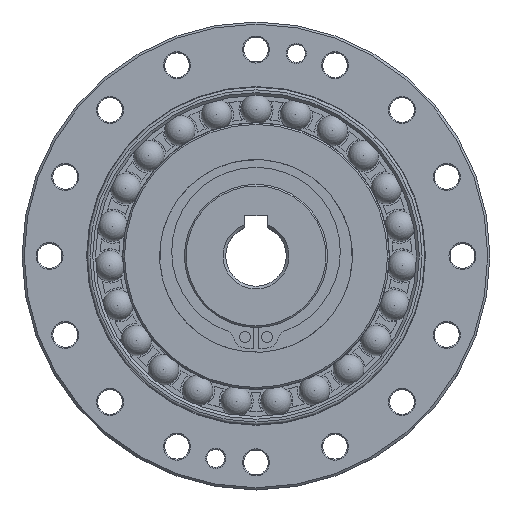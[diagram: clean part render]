
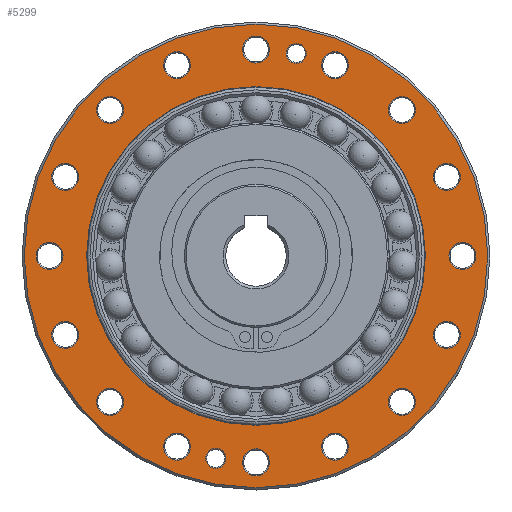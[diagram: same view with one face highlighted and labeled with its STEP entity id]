
A CAD part, top view. The second image highlights one B-rep face of the part: STEP entity #5299.
In plain terms, the highlighted planar face has unit normal (0, 0, 1).
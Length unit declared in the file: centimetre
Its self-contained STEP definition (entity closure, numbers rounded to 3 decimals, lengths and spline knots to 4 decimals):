
#1150=FACE_BOUND($,#1642,.T.);
#1151=FACE_BOUND($,#1643,.T.);
#1152=FACE_BOUND($,#1644,.T.);
#1153=FACE_BOUND($,#1645,.T.);
#1154=FACE_BOUND($,#1646,.T.);
#1155=FACE_BOUND($,#1647,.T.);
#1156=FACE_BOUND($,#1648,.T.);
#1157=FACE_BOUND($,#1649,.T.);
#1158=FACE_BOUND($,#1650,.T.);
#1159=FACE_BOUND($,#1651,.T.);
#1160=FACE_BOUND($,#1652,.T.);
#1161=FACE_BOUND($,#1653,.T.);
#1162=FACE_BOUND($,#1654,.T.);
#1163=FACE_BOUND($,#1655,.T.);
#1164=FACE_BOUND($,#1656,.T.);
#1165=FACE_BOUND($,#1657,.T.);
#1166=FACE_BOUND($,#1658,.T.);
#1167=FACE_BOUND($,#1659,.T.);
#1168=FACE_BOUND($,#1660,.T.);
#1169=FACE_BOUND($,#1661,.T.);
#1642=EDGE_LOOP($,(#4713));
#1643=EDGE_LOOP($,(#4714));
#1644=EDGE_LOOP($,(#4715));
#1645=EDGE_LOOP($,(#4716));
#1646=EDGE_LOOP($,(#4717));
#1647=EDGE_LOOP($,(#4718));
#1648=EDGE_LOOP($,(#4719));
#1649=EDGE_LOOP($,(#4720));
#1650=EDGE_LOOP($,(#4721));
#1651=EDGE_LOOP($,(#4722));
#1652=EDGE_LOOP($,(#4723));
#1653=EDGE_LOOP($,(#4724));
#1654=EDGE_LOOP($,(#4725));
#1655=EDGE_LOOP($,(#4726));
#1656=EDGE_LOOP($,(#4727));
#1657=EDGE_LOOP($,(#4728));
#1658=EDGE_LOOP($,(#4729));
#1659=EDGE_LOOP($,(#4730));
#1660=EDGE_LOOP($,(#4731));
#1661=EDGE_LOOP($,(#4732));
#2275=CIRCLE($,#6105,3.0769);
#2276=CIRCLE($,#6107,0.245);
#2277=CIRCLE($,#6108,0.245);
#2278=CIRCLE($,#6109,0.245);
#2279=CIRCLE($,#6110,0.245);
#2280=CIRCLE($,#6111,0.245);
#2281=CIRCLE($,#6112,0.245);
#2282=CIRCLE($,#6113,0.245);
#2283=CIRCLE($,#6114,0.245);
#2284=CIRCLE($,#6115,0.245);
#2285=CIRCLE($,#6116,0.245);
#2286=CIRCLE($,#6117,0.245);
#2287=CIRCLE($,#6118,0.245);
#2288=CIRCLE($,#6119,0.245);
#2289=CIRCLE($,#6120,0.245);
#2290=CIRCLE($,#6121,0.245);
#2291=CIRCLE($,#6122,0.245);
#2292=CIRCLE($,#6123,0.1821);
#2293=CIRCLE($,#6124,0.1821);
#2294=CIRCLE($,#6125,4.21);
#2741=VERTEX_POINT($,#9425);
#2742=VERTEX_POINT($,#9428);
#2743=VERTEX_POINT($,#9430);
#2744=VERTEX_POINT($,#9432);
#2745=VERTEX_POINT($,#9434);
#2746=VERTEX_POINT($,#9436);
#2747=VERTEX_POINT($,#9438);
#2748=VERTEX_POINT($,#9440);
#2749=VERTEX_POINT($,#9442);
#2750=VERTEX_POINT($,#9444);
#2751=VERTEX_POINT($,#9446);
#2752=VERTEX_POINT($,#9448);
#2753=VERTEX_POINT($,#9450);
#2754=VERTEX_POINT($,#9452);
#2755=VERTEX_POINT($,#9454);
#2756=VERTEX_POINT($,#9456);
#2757=VERTEX_POINT($,#9458);
#2758=VERTEX_POINT($,#9460);
#2759=VERTEX_POINT($,#9462);
#2760=VERTEX_POINT($,#9464);
#3401=EDGE_CURVE($,#2741,#2741,#2275,.T.);
#3402=EDGE_CURVE($,#2742,#2742,#2276,.T.);
#3403=EDGE_CURVE($,#2743,#2743,#2277,.T.);
#3404=EDGE_CURVE($,#2744,#2744,#2278,.T.);
#3405=EDGE_CURVE($,#2745,#2745,#2279,.T.);
#3406=EDGE_CURVE($,#2746,#2746,#2280,.T.);
#3407=EDGE_CURVE($,#2747,#2747,#2281,.T.);
#3408=EDGE_CURVE($,#2748,#2748,#2282,.T.);
#3409=EDGE_CURVE($,#2749,#2749,#2283,.T.);
#3410=EDGE_CURVE($,#2750,#2750,#2284,.T.);
#3411=EDGE_CURVE($,#2751,#2751,#2285,.T.);
#3412=EDGE_CURVE($,#2752,#2752,#2286,.T.);
#3413=EDGE_CURVE($,#2753,#2753,#2287,.T.);
#3414=EDGE_CURVE($,#2754,#2754,#2288,.T.);
#3415=EDGE_CURVE($,#2755,#2755,#2289,.T.);
#3416=EDGE_CURVE($,#2756,#2756,#2290,.T.);
#3417=EDGE_CURVE($,#2757,#2757,#2291,.T.);
#3418=EDGE_CURVE($,#2758,#2758,#2292,.T.);
#3419=EDGE_CURVE($,#2759,#2759,#2293,.T.);
#3420=EDGE_CURVE($,#2760,#2760,#2294,.T.);
#4713=ORIENTED_EDGE($,*,*,#3402,.F.);
#4714=ORIENTED_EDGE($,*,*,#3403,.F.);
#4715=ORIENTED_EDGE($,*,*,#3404,.F.);
#4716=ORIENTED_EDGE($,*,*,#3405,.F.);
#4717=ORIENTED_EDGE($,*,*,#3406,.F.);
#4718=ORIENTED_EDGE($,*,*,#3407,.F.);
#4719=ORIENTED_EDGE($,*,*,#3408,.F.);
#4720=ORIENTED_EDGE($,*,*,#3409,.F.);
#4721=ORIENTED_EDGE($,*,*,#3410,.F.);
#4722=ORIENTED_EDGE($,*,*,#3411,.F.);
#4723=ORIENTED_EDGE($,*,*,#3412,.F.);
#4724=ORIENTED_EDGE($,*,*,#3413,.F.);
#4725=ORIENTED_EDGE($,*,*,#3414,.F.);
#4726=ORIENTED_EDGE($,*,*,#3415,.F.);
#4727=ORIENTED_EDGE($,*,*,#3416,.F.);
#4728=ORIENTED_EDGE($,*,*,#3417,.F.);
#4729=ORIENTED_EDGE($,*,*,#3418,.F.);
#4730=ORIENTED_EDGE($,*,*,#3419,.F.);
#4731=ORIENTED_EDGE($,*,*,#3420,.F.);
#4732=ORIENTED_EDGE($,*,*,#3401,.T.);
#5013=PLANE($,#6106);
#5299=ADVANCED_FACE($,(#1150,#1151,#1152,#1153,#1154,#1155,#1156,#1157,
#1158,#1159,#1160,#1161,#1162,#1163,#1164,#1165,#1166,#1167,#1168,#1169),
#5013,.T.);
#6105=AXIS2_PLACEMENT_3D($,#9426,#7840,#7841);
#6106=AXIS2_PLACEMENT_3D($,#9427,#7842,#7843);
#6107=AXIS2_PLACEMENT_3D($,#9429,#7844,#7845);
#6108=AXIS2_PLACEMENT_3D($,#9431,#7846,#7847);
#6109=AXIS2_PLACEMENT_3D($,#9433,#7848,#7849);
#6110=AXIS2_PLACEMENT_3D($,#9435,#7850,#7851);
#6111=AXIS2_PLACEMENT_3D($,#9437,#7852,#7853);
#6112=AXIS2_PLACEMENT_3D($,#9439,#7854,#7855);
#6113=AXIS2_PLACEMENT_3D($,#9441,#7856,#7857);
#6114=AXIS2_PLACEMENT_3D($,#9443,#7858,#7859);
#6115=AXIS2_PLACEMENT_3D($,#9445,#7860,#7861);
#6116=AXIS2_PLACEMENT_3D($,#9447,#7862,#7863);
#6117=AXIS2_PLACEMENT_3D($,#9449,#7864,#7865);
#6118=AXIS2_PLACEMENT_3D($,#9451,#7866,#7867);
#6119=AXIS2_PLACEMENT_3D($,#9453,#7868,#7869);
#6120=AXIS2_PLACEMENT_3D($,#9455,#7870,#7871);
#6121=AXIS2_PLACEMENT_3D($,#9457,#7872,#7873);
#6122=AXIS2_PLACEMENT_3D($,#9459,#7874,#7875);
#6123=AXIS2_PLACEMENT_3D($,#9461,#7876,#7877);
#6124=AXIS2_PLACEMENT_3D($,#9463,#7878,#7879);
#6125=AXIS2_PLACEMENT_3D($,#9465,#7880,#7881);
#7840=DIRECTION('center_axis',(0.,0.,-1.));
#7841=DIRECTION('ref_axis',(1.,0.,0.));
#7842=DIRECTION('center_axis',(0.,0.,1.));
#7843=DIRECTION('ref_axis',(1.,0.,0.));
#7844=DIRECTION('center_axis',(0.,0.,1.));
#7845=DIRECTION('ref_axis',(-1.,0.,0.));
#7846=DIRECTION('center_axis',(0.,0.,1.));
#7847=DIRECTION('ref_axis',(-1.,0.,0.));
#7848=DIRECTION('center_axis',(0.,0.,1.));
#7849=DIRECTION('ref_axis',(-1.,0.,0.));
#7850=DIRECTION('center_axis',(0.,0.,1.));
#7851=DIRECTION('ref_axis',(-1.,0.,0.));
#7852=DIRECTION('center_axis',(0.,0.,1.));
#7853=DIRECTION('ref_axis',(-1.,0.,0.));
#7854=DIRECTION('center_axis',(0.,0.,1.));
#7855=DIRECTION('ref_axis',(-1.,0.,0.));
#7856=DIRECTION('center_axis',(0.,0.,1.));
#7857=DIRECTION('ref_axis',(-1.,0.,0.));
#7858=DIRECTION('center_axis',(0.,0.,1.));
#7859=DIRECTION('ref_axis',(-1.,0.,0.));
#7860=DIRECTION('center_axis',(0.,0.,1.));
#7861=DIRECTION('ref_axis',(-1.,0.,0.));
#7862=DIRECTION('center_axis',(0.,0.,1.));
#7863=DIRECTION('ref_axis',(-1.,0.,0.));
#7864=DIRECTION('center_axis',(0.,0.,1.));
#7865=DIRECTION('ref_axis',(-1.,0.,0.));
#7866=DIRECTION('center_axis',(0.,0.,1.));
#7867=DIRECTION('ref_axis',(-1.,0.,0.));
#7868=DIRECTION('center_axis',(0.,0.,1.));
#7869=DIRECTION('ref_axis',(-1.,0.,0.));
#7870=DIRECTION('center_axis',(0.,0.,1.));
#7871=DIRECTION('ref_axis',(-1.,0.,0.));
#7872=DIRECTION('center_axis',(0.,0.,1.));
#7873=DIRECTION('ref_axis',(-1.,0.,0.));
#7874=DIRECTION('center_axis',(0.,0.,1.));
#7875=DIRECTION('ref_axis',(-1.,0.,0.));
#7876=DIRECTION('center_axis',(0.,0.,1.));
#7877=DIRECTION('ref_axis',(-1.,0.,0.));
#7878=DIRECTION('center_axis',(0.,0.,1.));
#7879=DIRECTION('ref_axis',(-1.,0.,0.));
#7880=DIRECTION('center_axis',(0.,0.,-1.));
#7881=DIRECTION('ref_axis',(0.,-1.,0.));
#9425=CARTESIAN_POINT('',(0.,-3.0769,0.));
#9426=CARTESIAN_POINT('Origin',(0.,0.,0.));
#9427=CARTESIAN_POINT('Origin',(0.,-3.1198,0.));
#9428=CARTESIAN_POINT('',(0.245,3.75,0.));
#9429=CARTESIAN_POINT('Origin',(0.,3.75,0.));
#9430=CARTESIAN_POINT('',(-1.1901,3.4645,0.));
#9431=CARTESIAN_POINT('Origin',(-1.4351,3.4645,0.));
#9432=CARTESIAN_POINT('',(-2.4067,2.6517,0.));
#9433=CARTESIAN_POINT('Origin',(-2.6517,2.6517,0.));
#9434=CARTESIAN_POINT('',(-3.2195,1.4351,0.));
#9435=CARTESIAN_POINT('Origin',(-3.4645,1.4351,0.));
#9436=CARTESIAN_POINT('',(-3.505,0.,0.));
#9437=CARTESIAN_POINT('Origin',(-3.75,0.,0.));
#9438=CARTESIAN_POINT('',(-3.2195,-1.4351,0.));
#9439=CARTESIAN_POINT('Origin',(-3.4645,-1.4351,0.));
#9440=CARTESIAN_POINT('',(-2.4067,-2.6517,0.));
#9441=CARTESIAN_POINT('Origin',(-2.6517,-2.6517,0.));
#9442=CARTESIAN_POINT('',(-1.1901,-3.4645,0.));
#9443=CARTESIAN_POINT('Origin',(-1.4351,-3.4645,0.));
#9444=CARTESIAN_POINT('',(0.245,-3.75,0.));
#9445=CARTESIAN_POINT('Origin',(0.,-3.75,0.));
#9446=CARTESIAN_POINT('',(1.6801,-3.4645,0.));
#9447=CARTESIAN_POINT('Origin',(1.4351,-3.4645,0.));
#9448=CARTESIAN_POINT('',(2.8967,-2.6517,0.));
#9449=CARTESIAN_POINT('Origin',(2.6517,-2.6517,0.));
#9450=CARTESIAN_POINT('',(3.7095,-1.4351,0.));
#9451=CARTESIAN_POINT('Origin',(3.4645,-1.4351,0.));
#9452=CARTESIAN_POINT('',(3.995,0.,0.));
#9453=CARTESIAN_POINT('Origin',(3.75,0.,0.));
#9454=CARTESIAN_POINT('',(3.7095,1.4351,0.));
#9455=CARTESIAN_POINT('Origin',(3.4645,1.4351,0.));
#9456=CARTESIAN_POINT('',(2.8967,2.6517,0.));
#9457=CARTESIAN_POINT('Origin',(2.6517,2.6517,0.));
#9458=CARTESIAN_POINT('',(1.6801,3.4645,0.));
#9459=CARTESIAN_POINT('Origin',(1.4351,3.4645,0.));
#9460=CARTESIAN_POINT('',(-0.5495,-3.6779,0.));
#9461=CARTESIAN_POINT('Origin',(-0.7316,-3.6779,0.));
#9462=CARTESIAN_POINT('',(0.9137,3.6779,0.));
#9463=CARTESIAN_POINT('Origin',(0.7316,3.6779,0.));
#9464=CARTESIAN_POINT('',(0.,4.21,0.));
#9465=CARTESIAN_POINT('Origin',(0.,0.,0.));
